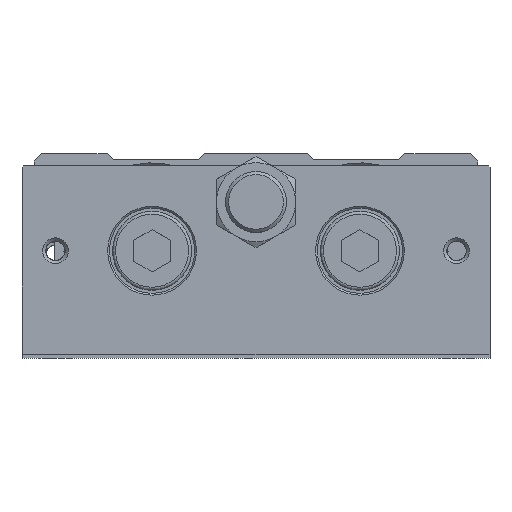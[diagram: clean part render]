
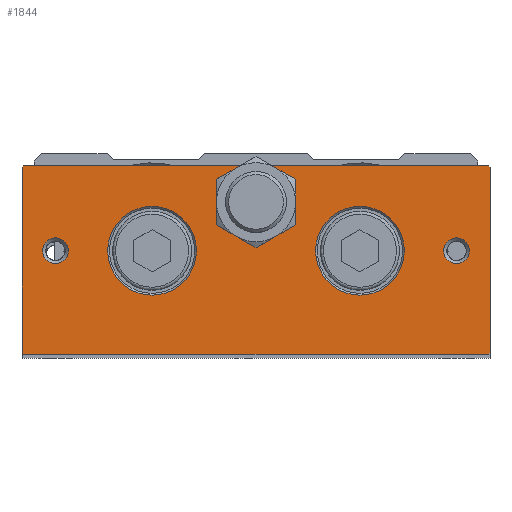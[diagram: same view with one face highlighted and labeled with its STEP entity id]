
A CAD part, top view. The second image highlights one B-rep face of the part: STEP entity #1844.
In plain terms, the highlighted planar face has unit normal (0, 0, 1).
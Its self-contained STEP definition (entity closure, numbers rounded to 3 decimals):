
#1642=CARTESIAN_POINT('',(-38.2,-17.5,229.0));
#1643=VERTEX_POINT('',#1642);
#1650=CARTESIAN_POINT('',(-38.5,-17.2,229.0));
#1651=VERTEX_POINT('',#1650);
#1652=CARTESIAN_POINT('',(-38.2,-17.5,229.0));
#1653=DIRECTION('',(-0.707,0.707,0.0));
#1654=VECTOR('',#1653,0.424);
#1655=LINE('',#1652,#1654);
#1656=EDGE_CURVE('',#1643,#1651,#1655,.T.);
#1667=CARTESIAN_POINT('',(0.0,-17.5,229.0));
#1668=DIRECTION('',(0.0,0.0,1.0));
#1669=DIRECTION('',(1.0,0.0,0.0));
#1670=AXIS2_PLACEMENT_3D('',#1667,#1668,#1669);
#1671=PLANE('',#1670);
#1672=ORIENTED_EDGE('',*,*,#1656,.F.);
#1673=CARTESIAN_POINT('',(38.2,-17.5,229.0));
#1674=VERTEX_POINT('',#1673);
#1675=CARTESIAN_POINT('',(-38.2,-17.5,229.0));
#1676=DIRECTION('',(1.0,0.0,0.0));
#1677=VECTOR('',#1676,76.4);
#1678=LINE('',#1675,#1677);
#1679=EDGE_CURVE('',#1643,#1674,#1678,.T.);
#1680=ORIENTED_EDGE('',*,*,#1679,.T.);
#1681=CARTESIAN_POINT('',(38.5,-17.2,229.0));
#1682=VERTEX_POINT('',#1681);
#1683=CARTESIAN_POINT('',(38.5,-17.2,229.0));
#1684=DIRECTION('',(-0.707,-0.707,0.0));
#1685=VECTOR('',#1684,0.424);
#1686=LINE('',#1683,#1685);
#1687=EDGE_CURVE('',#1682,#1674,#1686,.T.);
#1688=ORIENTED_EDGE('',*,*,#1687,.F.);
#1689=CARTESIAN_POINT('',(38.5,13.2,229.0));
#1690=VERTEX_POINT('',#1689);
#1691=CARTESIAN_POINT('',(38.5,-17.2,229.0));
#1692=DIRECTION('',(0.0,1.0,0.0));
#1693=VECTOR('',#1692,30.4);
#1694=LINE('',#1691,#1693);
#1695=EDGE_CURVE('',#1682,#1690,#1694,.T.);
#1696=ORIENTED_EDGE('',*,*,#1695,.T.);
#1697=CARTESIAN_POINT('',(38.2,13.5,229.0));
#1698=VERTEX_POINT('',#1697);
#1699=CARTESIAN_POINT('',(38.2,13.5,229.0));
#1700=DIRECTION('',(0.707,-0.707,0.0));
#1701=VECTOR('',#1700,0.424);
#1702=LINE('',#1699,#1701);
#1703=EDGE_CURVE('',#1698,#1690,#1702,.T.);
#1704=ORIENTED_EDGE('',*,*,#1703,.F.);
#1705=CARTESIAN_POINT('',(2.5,13.5,229.0));
#1706=VERTEX_POINT('',#1705);
#1707=CARTESIAN_POINT('',(38.2,13.5,229.0));
#1708=DIRECTION('',(-1.0,0.0,0.0));
#1709=VECTOR('',#1708,35.7);
#1710=LINE('',#1707,#1709);
#1711=EDGE_CURVE('',#1698,#1706,#1710,.T.);
#1712=ORIENTED_EDGE('',*,*,#1711,.T.);
#1713=CARTESIAN_POINT('',(3.25,13.129,229.0));
#1714=VERTEX_POINT('',#1713);
#1715=CARTESIAN_POINT('',(0.0,7.5,229.0));
#1716=DIRECTION('',(0.0,0.0,1.0));
#1717=DIRECTION('',(0.0,1.0,0.0));
#1718=AXIS2_PLACEMENT_3D('',#1715,#1716,#1717);
#1719=CIRCLE('',#1718,6.5);
#1720=EDGE_CURVE('',#1714,#1706,#1719,.T.);
#1721=ORIENTED_EDGE('',*,*,#1720,.F.);
#1722=CARTESIAN_POINT('',(6.5,7.5,229.0));
#1723=VERTEX_POINT('',#1722);
#1724=CARTESIAN_POINT('',(0.0,7.5,229.0));
#1725=DIRECTION('',(0.0,0.0,1.0));
#1726=DIRECTION('',(0.0,1.0,0.0));
#1727=AXIS2_PLACEMENT_3D('',#1724,#1725,#1726);
#1728=CIRCLE('',#1727,6.5);
#1729=EDGE_CURVE('',#1723,#1714,#1728,.T.);
#1730=ORIENTED_EDGE('',*,*,#1729,.F.);
#1731=CARTESIAN_POINT('',(3.25,1.871,229.0));
#1732=VERTEX_POINT('',#1731);
#1733=CARTESIAN_POINT('',(0.0,7.5,229.0));
#1734=DIRECTION('',(0.0,0.0,1.0));
#1735=DIRECTION('',(0.0,1.0,0.0));
#1736=AXIS2_PLACEMENT_3D('',#1733,#1734,#1735);
#1737=CIRCLE('',#1736,6.5);
#1738=EDGE_CURVE('',#1732,#1723,#1737,.T.);
#1739=ORIENTED_EDGE('',*,*,#1738,.F.);
#1740=CARTESIAN_POINT('',(-3.25,1.871,229.0));
#1741=VERTEX_POINT('',#1740);
#1742=CARTESIAN_POINT('',(0.0,7.5,229.0));
#1743=DIRECTION('',(0.0,0.0,1.0));
#1744=DIRECTION('',(0.0,1.0,0.0));
#1745=AXIS2_PLACEMENT_3D('',#1742,#1743,#1744);
#1746=CIRCLE('',#1745,6.5);
#1747=EDGE_CURVE('',#1741,#1732,#1746,.T.);
#1748=ORIENTED_EDGE('',*,*,#1747,.F.);
#1749=CARTESIAN_POINT('',(-6.5,7.5,229.0));
#1750=VERTEX_POINT('',#1749);
#1751=CARTESIAN_POINT('',(0.0,7.5,229.0));
#1752=DIRECTION('',(0.0,0.0,1.0));
#1753=DIRECTION('',(0.0,1.0,0.0));
#1754=AXIS2_PLACEMENT_3D('',#1751,#1752,#1753);
#1755=CIRCLE('',#1754,6.5);
#1756=EDGE_CURVE('',#1750,#1741,#1755,.T.);
#1757=ORIENTED_EDGE('',*,*,#1756,.F.);
#1758=CARTESIAN_POINT('',(-3.25,13.129,229.0));
#1759=VERTEX_POINT('',#1758);
#1760=CARTESIAN_POINT('',(0.0,7.5,229.0));
#1761=DIRECTION('',(0.0,0.0,1.0));
#1762=DIRECTION('',(0.0,1.0,0.0));
#1763=AXIS2_PLACEMENT_3D('',#1760,#1761,#1762);
#1764=CIRCLE('',#1763,6.5);
#1765=EDGE_CURVE('',#1759,#1750,#1764,.T.);
#1766=ORIENTED_EDGE('',*,*,#1765,.F.);
#1767=CARTESIAN_POINT('',(-2.5,13.5,229.0));
#1768=VERTEX_POINT('',#1767);
#1769=CARTESIAN_POINT('',(0.0,7.5,229.0));
#1770=DIRECTION('',(0.0,0.0,1.0));
#1771=DIRECTION('',(0.0,1.0,0.0));
#1772=AXIS2_PLACEMENT_3D('',#1769,#1770,#1771);
#1773=CIRCLE('',#1772,6.5);
#1774=EDGE_CURVE('',#1768,#1759,#1773,.T.);
#1775=ORIENTED_EDGE('',*,*,#1774,.F.);
#1776=CARTESIAN_POINT('',(-38.2,13.5,229.0));
#1777=VERTEX_POINT('',#1776);
#1778=CARTESIAN_POINT('',(-2.5,13.5,229.0));
#1779=DIRECTION('',(-1.0,0.0,0.0));
#1780=VECTOR('',#1779,35.7);
#1781=LINE('',#1778,#1780);
#1782=EDGE_CURVE('',#1768,#1777,#1781,.T.);
#1783=ORIENTED_EDGE('',*,*,#1782,.T.);
#1784=CARTESIAN_POINT('',(-38.5,13.2,229.0));
#1785=VERTEX_POINT('',#1784);
#1786=CARTESIAN_POINT('',(-38.5,13.2,229.0));
#1787=DIRECTION('',(0.707,0.707,0.0));
#1788=VECTOR('',#1787,0.424);
#1789=LINE('',#1786,#1788);
#1790=EDGE_CURVE('',#1785,#1777,#1789,.T.);
#1791=ORIENTED_EDGE('',*,*,#1790,.F.);
#1792=CARTESIAN_POINT('',(-38.5,13.2,229.0));
#1793=DIRECTION('',(0.0,-1.0,0.0));
#1794=VECTOR('',#1793,30.4);
#1795=LINE('',#1792,#1794);
#1796=EDGE_CURVE('',#1785,#1651,#1795,.T.);
#1797=ORIENTED_EDGE('',*,*,#1796,.T.);
#1798=EDGE_LOOP('',(#1672,#1680,#1688,#1696,#1704,#1712,#1721,#1730,#1739,#1748,#1757,#1766,#1775,#1783,#1791,#1797));
#1799=FACE_OUTER_BOUND('',#1798,.T.);
#1800=CARTESIAN_POINT('',(-9.8,-0.5,229.0));
#1801=VERTEX_POINT('',#1800);
#1802=CARTESIAN_POINT('',(-17.1,-0.5,229.0));
#1803=DIRECTION('',(0.0,0.0,1.0));
#1804=DIRECTION('',(-1.0,0.0,0.0));
#1805=AXIS2_PLACEMENT_3D('',#1802,#1803,#1804);
#1806=CIRCLE('',#1805,7.3);
#1807=EDGE_CURVE('',#1801,#1801,#1806,.T.);
#1808=ORIENTED_EDGE('',*,*,#1807,.F.);
#1809=EDGE_LOOP('',(#1808));
#1810=FACE_BOUND('',#1809,.T.);
#1811=CARTESIAN_POINT('',(35.121,-0.5,229.0));
#1812=VERTEX_POINT('',#1811);
#1813=CARTESIAN_POINT('',(33.0,-0.5,229.0));
#1814=DIRECTION('',(0.0,0.0,1.0));
#1815=DIRECTION('',(-1.0,0.0,0.0));
#1816=AXIS2_PLACEMENT_3D('',#1813,#1814,#1815);
#1817=CIRCLE('',#1816,2.121);
#1818=EDGE_CURVE('',#1812,#1812,#1817,.T.);
#1819=ORIENTED_EDGE('',*,*,#1818,.F.);
#1820=EDGE_LOOP('',(#1819));
#1821=FACE_BOUND('',#1820,.T.);
#1822=CARTESIAN_POINT('',(-30.879,-0.5,229.0));
#1823=VERTEX_POINT('',#1822);
#1824=CARTESIAN_POINT('',(-33.0,-0.5,229.0));
#1825=DIRECTION('',(0.0,0.0,1.0));
#1826=DIRECTION('',(-1.0,0.0,0.0));
#1827=AXIS2_PLACEMENT_3D('',#1824,#1825,#1826);
#1828=CIRCLE('',#1827,2.121);
#1829=EDGE_CURVE('',#1823,#1823,#1828,.T.);
#1830=ORIENTED_EDGE('',*,*,#1829,.F.);
#1831=EDGE_LOOP('',(#1830));
#1832=FACE_BOUND('',#1831,.T.);
#1833=CARTESIAN_POINT('',(24.4,-0.5,229.0));
#1834=VERTEX_POINT('',#1833);
#1835=CARTESIAN_POINT('',(17.1,-0.5,229.0));
#1836=DIRECTION('',(0.0,0.0,1.0));
#1837=DIRECTION('',(-1.0,0.0,0.0));
#1838=AXIS2_PLACEMENT_3D('',#1835,#1836,#1837);
#1839=CIRCLE('',#1838,7.3);
#1840=EDGE_CURVE('',#1834,#1834,#1839,.T.);
#1841=ORIENTED_EDGE('',*,*,#1840,.F.);
#1842=EDGE_LOOP('',(#1841));
#1843=FACE_BOUND('',#1842,.T.);
#1844=ADVANCED_FACE('',(#1799,#1810,#1821,#1832,#1843),#1671,.T.);
